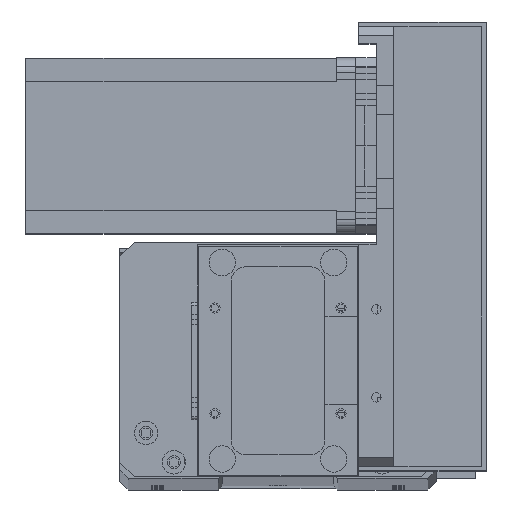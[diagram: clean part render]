
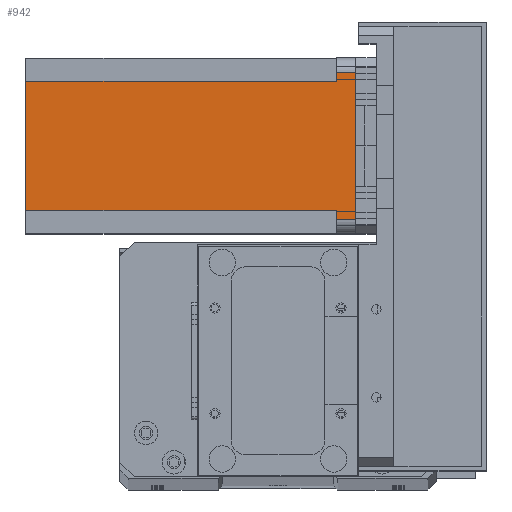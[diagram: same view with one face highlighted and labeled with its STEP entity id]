
A CAD part, top view. The second image highlights one B-rep face of the part: STEP entity #942.
In plain terms, the highlighted planar face has unit normal (0, 0, 1) as drawn and (0, 1, 0) by its records, which use the part's own axes.
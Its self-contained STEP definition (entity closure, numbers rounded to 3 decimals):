
#942 = ADVANCED_FACE ( 'NONE', ( #20312 ), #9936, .T. ) ;
#1163 = DIRECTION ( 'NONE',  ( 0., 0., 1. ) ) ;
#1403 = VECTOR ( 'NONE', #21437, 1000. ) ;
#1539 = VERTEX_POINT ( 'NONE', #29153 ) ;
#2296 = LINE ( 'NONE', #4848, #13619 ) ;
#3203 = EDGE_CURVE ( 'NONE', #13685, #17761, #20604, .T. ) ;
#3314 = AXIS2_PLACEMENT_3D ( 'NONE', #22799, #25536, #10043 ) ;
#3554 = CARTESIAN_POINT ( 'NONE',  ( 55., 60., -6.5 ) ) ;
#3969 = DIRECTION ( 'NONE',  ( 1., 0., 0. ) ) ;
#4848 = CARTESIAN_POINT ( 'NONE',  ( 8., 60., -6.5 ) ) ;
#5960 = CARTESIAN_POINT ( 'NONE',  ( 0., 60., -112.5 ) ) ;
#6404 = CARTESIAN_POINT ( 'NONE',  ( 8., 60., -112.5 ) ) ;
#8555 = DIRECTION ( 'NONE',  ( -1., 0., 0. ) ) ;
#8901 = LINE ( 'NONE', #21504, #14940 ) ;
#9016 = CARTESIAN_POINT ( 'NONE',  ( 52., 60., -6.5 ) ) ;
#9181 = LINE ( 'NONE', #9016, #29029 ) ;
#9301 = VECTOR ( 'NONE', #18183, 1000. ) ;
#9604 = EDGE_CURVE ( 'NONE', #1539, #22092, #22022, .T. ) ;
#9936 = PLANE ( 'NONE',  #3314 ) ;
#10043 = DIRECTION ( 'NONE',  ( 0., 0., 1. ) ) ;
#10231 = ORIENTED_EDGE ( 'NONE', *, *, #9604, .F. ) ;
#10615 = ORIENTED_EDGE ( 'NONE', *, *, #25502, .T. ) ;
#11444 = CARTESIAN_POINT ( 'NONE',  ( 52., 60., -112.5 ) ) ;
#11655 = ORIENTED_EDGE ( 'NONE', *, *, #19396, .F. ) ;
#11950 = VECTOR ( 'NONE', #8555, 1000. ) ;
#12191 = CARTESIAN_POINT ( 'NONE',  ( 52., 60., -112.5 ) ) ;
#12247 = VECTOR ( 'NONE', #1163, 1000. ) ;
#12615 = CARTESIAN_POINT ( 'NONE',  ( 52., 60., -6.5 ) ) ;
#12758 = LINE ( 'NONE', #5960, #11950 ) ;
#13619 = VECTOR ( 'NONE', #30730, 1000. ) ;
#13685 = VERTEX_POINT ( 'NONE', #19902 ) ;
#14940 = VECTOR ( 'NONE', #31913, 1000. ) ;
#17761 = VERTEX_POINT ( 'NONE', #3554 ) ;
#17802 = EDGE_CURVE ( 'NONE', #33337, #18700, #26017, .T. ) ;
#18183 = DIRECTION ( 'NONE',  ( 0., 0., -1. ) ) ;
#18326 = VERTEX_POINT ( 'NONE', #26587 ) ;
#18700 = VERTEX_POINT ( 'NONE', #12615 ) ;
#18860 = VERTEX_POINT ( 'NONE', #21669 ) ;
#19396 = EDGE_CURVE ( 'NONE', #13685, #18860, #8901, .T. ) ;
#19811 = VECTOR ( 'NONE', #33098, 1000. ) ;
#19902 = CARTESIAN_POINT ( 'NONE',  ( 55., 60., 0. ) ) ;
#20123 = EDGE_CURVE ( 'NONE', #18700, #17761, #9181, .T. ) ;
#20312 = FACE_OUTER_BOUND ( 'NONE', #22857, .T. ) ;
#20599 = LINE ( 'NONE', #22731, #19811 ) ;
#20604 = LINE ( 'NONE', #26001, #9301 ) ;
#21437 = DIRECTION ( 'NONE',  ( 0., 0., -1. ) ) ;
#21504 = CARTESIAN_POINT ( 'NONE',  ( 0., 60., 0. ) ) ;
#21669 = CARTESIAN_POINT ( 'NONE',  ( 5., 60., 0. ) ) ;
#21972 = EDGE_CURVE ( 'NONE', #33337, #22092, #12758, .T. ) ;
#22022 = LINE ( 'NONE', #31715, #1403 ) ;
#22092 = VERTEX_POINT ( 'NONE', #6404 ) ;
#22562 = ORIENTED_EDGE ( 'NONE', *, *, #20123, .F. ) ;
#22731 = CARTESIAN_POINT ( 'NONE',  ( 5., 60., -112.5 ) ) ;
#22799 = CARTESIAN_POINT ( 'NONE',  ( 0., 60., -112.5 ) ) ;
#22857 = EDGE_LOOP ( 'NONE', ( #11655, #28792, #22562, #33440, #27916, #10231, #32168, #10615 ) ) ;
#25502 = EDGE_CURVE ( 'NONE', #18326, #18860, #20599, .T. ) ;
#25536 = DIRECTION ( 'NONE',  ( 0., 1., 0. ) ) ;
#26001 = CARTESIAN_POINT ( 'NONE',  ( 55., 60., -112.5 ) ) ;
#26017 = LINE ( 'NONE', #11444, #12247 ) ;
#26587 = CARTESIAN_POINT ( 'NONE',  ( 5., 60., -6.5 ) ) ;
#27916 = ORIENTED_EDGE ( 'NONE', *, *, #21972, .T. ) ;
#28792 = ORIENTED_EDGE ( 'NONE', *, *, #3203, .T. ) ;
#29029 = VECTOR ( 'NONE', #3969, 1000. ) ;
#29153 = CARTESIAN_POINT ( 'NONE',  ( 8., 60., -6.5 ) ) ;
#30730 = DIRECTION ( 'NONE',  ( -1., 0., 0. ) ) ;
#31715 = CARTESIAN_POINT ( 'NONE',  ( 8., 60., -112.5 ) ) ;
#31913 = DIRECTION ( 'NONE',  ( -1., 0., 0. ) ) ;
#32168 = ORIENTED_EDGE ( 'NONE', *, *, #33426, .T. ) ;
#33098 = DIRECTION ( 'NONE',  ( 0., 0., 1. ) ) ;
#33337 = VERTEX_POINT ( 'NONE', #12191 ) ;
#33426 = EDGE_CURVE ( 'NONE', #1539, #18326, #2296, .T. ) ;
#33440 = ORIENTED_EDGE ( 'NONE', *, *, #17802, .F. ) ;
